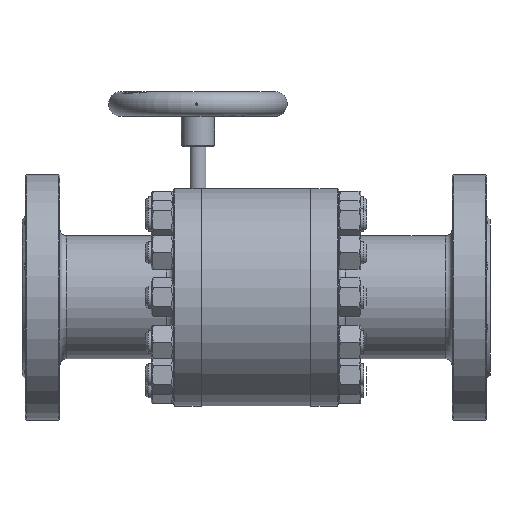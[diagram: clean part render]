
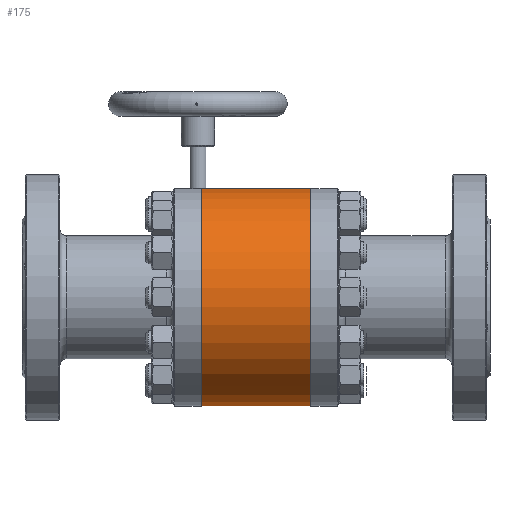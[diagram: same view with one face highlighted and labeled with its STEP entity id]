
A CAD part, front view. The second image highlights one B-rep face of the part: STEP entity #175.
In plain terms, the highlighted cylindrical face has radius 97.5 mm (diameter 195 mm), a partial arc.
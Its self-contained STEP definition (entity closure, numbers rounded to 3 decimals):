
#175=ADVANCED_FACE('',(#20859),#20861,.T.);
#20859=FACE_OUTER_BOUND('',#20860,.T.);
#20860=EDGE_LOOP('',(#59640,#59641,#59642,#59643));
#20861=CYLINDRICAL_SURFACE('',#20862,97.5);
#20862=AXIS2_PLACEMENT_3D('',#20863,#20864,#20865);
#20863=CARTESIAN_POINT('',(49.,0.,0.));
#20864=DIRECTION('',(-1.,-0.,-0.));
#20865=DIRECTION('',(0.,-1.,0.));
#59640=ORIENTED_EDGE('',*,*,#88116,.F.);
#59641=ORIENTED_EDGE('',*,*,#88115,.T.);
#59642=ORIENTED_EDGE('',*,*,#88102,.T.);
#59643=ORIENTED_EDGE('',*,*,#88114,.T.);
#88102=EDGE_CURVE('',#92085,#92083,#92086,.T.);
#88114=EDGE_CURVE('',#92083,#92104,#92106,.T.);
#88115=EDGE_CURVE('',#92100,#92085,#92107,.F.);
#88116=EDGE_CURVE('',#92100,#92104,#92108,.T.);
#92083=VERTEX_POINT('',#98245);
#92085=VERTEX_POINT('',#98251);
#92086=CIRCLE('',#98252,97.5);
#92100=VERTEX_POINT('',#98290);
#92104=VERTEX_POINT('',#98300);
#92106=LINE('',#98306,#98307);
#92107=LINE('',#98309,#98310);
#92108=CIRCLE('',#98312,97.5);
#98245=CARTESIAN_POINT('',(48.8,87.,44.014));
#98251=CARTESIAN_POINT('',(48.8,87.,-44.014));
#98252=AXIS2_PLACEMENT_3D('',#98253,#98254,#98255);
#98253=CARTESIAN_POINT('',(48.8,0.,0.));
#98254=DIRECTION('',(-1.,-0.,0.));
#98255=DIRECTION('',(0.,0.892,-0.451));
#98290=CARTESIAN_POINT('',(-48.8,87.,-44.014));
#98300=CARTESIAN_POINT('',(-48.8,87.,44.014));
#98306=CARTESIAN_POINT('',(48.8,87.,44.014));
#98307=VECTOR('',#98308,1.);
#98308=DIRECTION('',(-1.,0.,0.));
#98309=CARTESIAN_POINT('',(48.8,87.,-44.014));
#98310=VECTOR('',#98311,1.);
#98311=DIRECTION('',(-1.,0.,0.));
#98312=AXIS2_PLACEMENT_3D('',#98313,#98314,#98315);
#98313=CARTESIAN_POINT('',(-48.8,0.,0.));
#98314=DIRECTION('',(-1.,-0.,0.));
#98315=DIRECTION('',(0.,0.892,-0.451));
